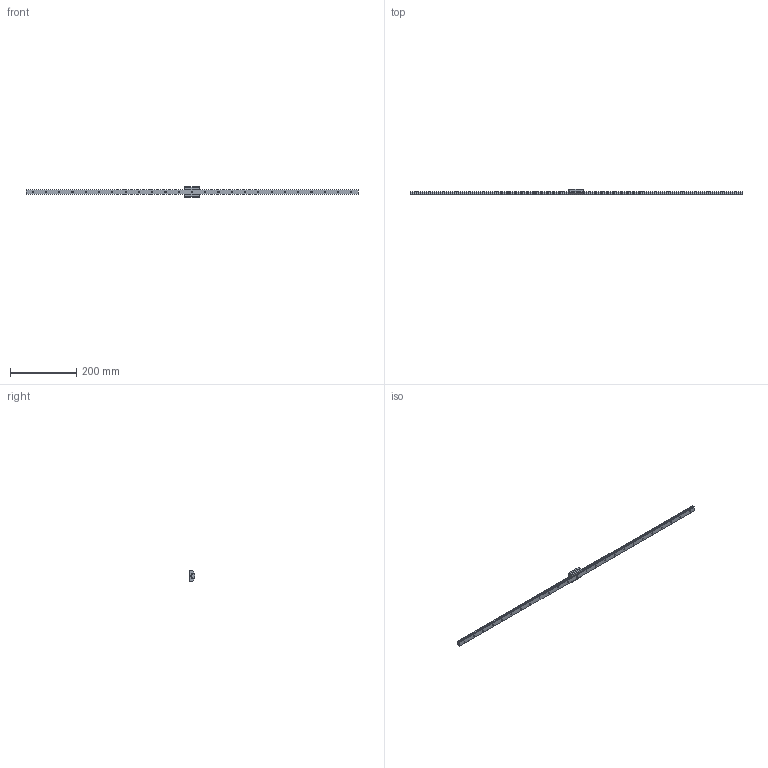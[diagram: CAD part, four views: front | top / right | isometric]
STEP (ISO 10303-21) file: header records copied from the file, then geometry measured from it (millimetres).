
FILE_DESCRIPTION( ( '' ), '1' );
FILE_NAME( 'C:/Users/v3-771-32344/Documents/Website 2016/STEP/SRS15M1UU1000200478.5000.stp', '2016-11-10T13:10:08', ( '' ), ( '' ), ' ', ' ', ' ' );
FILE_SCHEMA( ( 'CONFIG_CONTROL_DESIGN' ) );
Length unit declared in the file: millimetre
Products named in the file (2): 1; 2
Bounding box: 1000 x 16 x 32 mm (x, y, z)
Volume: 133942.1 mm3; surface area: 56533.5 mm2
Topology: 2 solids, 2 shells, 249 faces, 626 edges, 404 vertices
Faces by surface type: cylinder 130, plane 103, cone 16
Entity records: 7656 total; most frequent: DIRECTION 1388, CARTESIAN_POINT 1273, ORIENTED_EDGE 1236, EDGE_CURVE 618, AXIS2_PLACEMENT_3D 519, VERTEX_POINT 404, LINE 350, VECTOR 350
